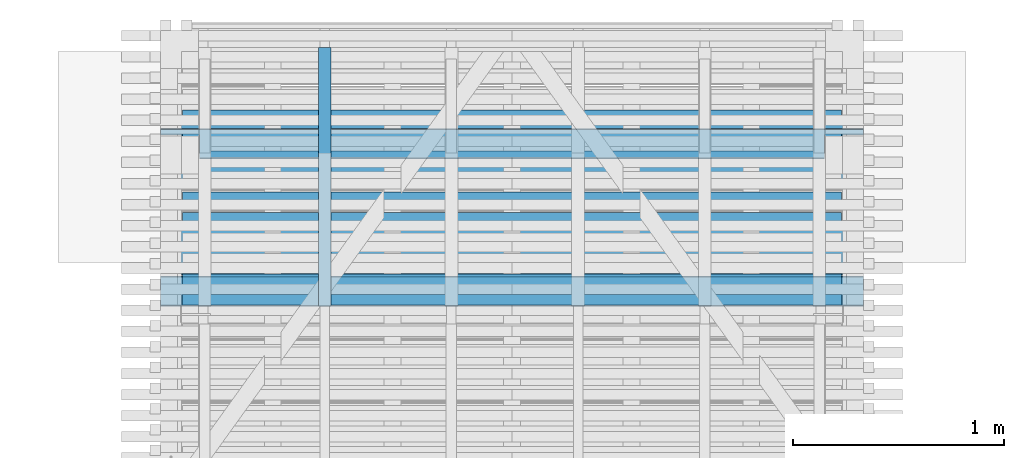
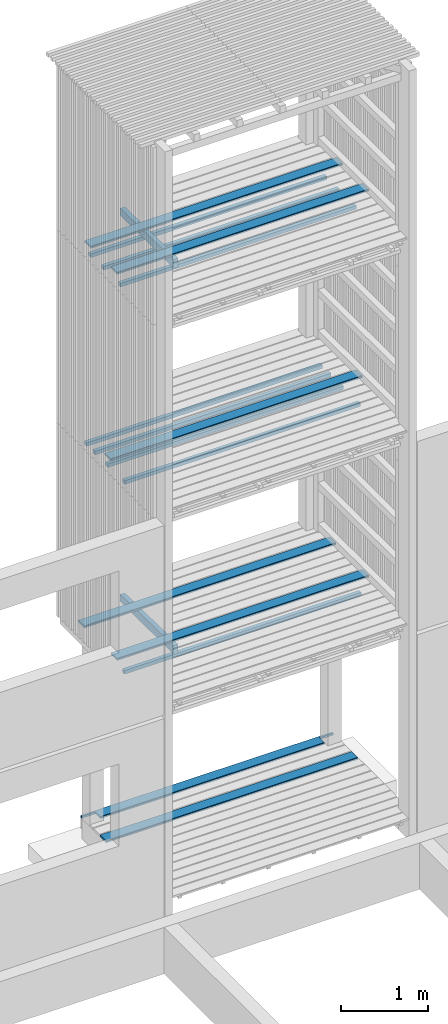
# One storey, part 23 of 182: 17 beams.
"""IFC2X3 building model written with IfcOpenShell, lengths in metres."""

import ifcopenshell
import ifcopenshell.guid

model = None  # the IFC model being written
_history = None  # IfcOwnerHistory: only IFC2X3 demands one
_inside = {}  # id of a spatial element -> (the spatial element, [elements in it])
_under = {}  # id of a project, library or spatial element -> (it, [spatial elements below it])
_declared = {}  # id of a project -> (the project, [libraries it declares])
_typed = {}  # id of a type object -> (the type object, [elements of that type])
_made_of = {}  # id of a material, layer set ... -> (it, [elements and type objects made of it])


def new_model(schema):
    """Start an empty IFC model of exactly this schema.

    Asked for "IFC4X3", IfcOpenShell would pick the latest addendum, in which some entities
    have other attributes; the version numbers below select the first issue.
    IFC2X3 requires an IfcOwnerHistory on every rooted entity: one is made here for all.
    """
    global model, _history
    if schema == "IFC4X3":
        model = ifcopenshell.file(schema_version=(4, 3, 0, 0))
    else:
        model = ifcopenshell.file(schema=schema)
    _inside.clear()
    _under.clear()
    _declared.clear()
    _typed.clear()
    _made_of.clear()
    _history = None
    if model.schema == "IFC2X3":
        org = make("IfcOrganization", Name="unknown")
        user = make(
            "IfcPersonAndOrganization",
            ThePerson=make("IfcPerson", FamilyName="unknown"),
            TheOrganization=org,
        )
        app = make(
            "IfcApplication",
            ApplicationDeveloper=org,
            Version="unknown",
            ApplicationFullName="unknown",
            ApplicationIdentifier="unknown",
        )
        _history = make(
            "IfcOwnerHistory",
            OwningUser=user,
            OwningApplication=app,
            ChangeAction="ADDED",
            CreationDate=0,
        )
    return model


def make(cls, **values):
    """One entity of the class cls with the attributes given. An attribute that is None is left unset."""
    return model.create_entity(
        cls, **{name: value for name, value in values.items() if value is not None}
    )


def rooted(cls, **values):
    """An entity with a GlobalId (a new one), such as an element, a storey or a relation."""
    return make(cls, GlobalId=ifcopenshell.guid.new(), OwnerHistory=_history, **values)


def si_unit(unit_type, name, prefix=None):
    """IfcSIUnit, for example si_unit("LENGTHUNIT", "METRE", prefix="MILLI")."""
    return make("IfcSIUnit", UnitType=unit_type, Prefix=prefix, Name=name)


def assignment(units):
    """IfcUnitAssignment: the units of a project."""
    return None if units is None else make("IfcUnitAssignment", Units=units)


def point(xyz):
    """IfcCartesianPoint."""
    return None if xyz is None else make("IfcCartesianPoint", Coordinates=xyz)


def direction(xyz):
    """IfcDirection."""
    return None if xyz is None else make("IfcDirection", DirectionRatios=xyz)


def frame(location, z_axis=None, x_axis=None):
    """IfcAxis2Placement3D, a coordinate frame: its origin and axes. An axis left out is left unset."""
    return make(
        "IfcAxis2Placement3D",
        Location=point(location),
        Axis=direction(z_axis),
        RefDirection=direction(x_axis),
    )


def origin():
    """The frame at (0, 0, 0) with its axes left unset."""
    return frame((0.0, 0.0, 0.0))


def place(relative_to, where):
    """IfcLocalPlacement: puts the frame where relative to a parent placement (None: the world)."""
    return make(
        "IfcLocalPlacement", PlacementRelTo=relative_to, RelativePlacement=where
    )


def context(
    kind, dimensions, precision=None, world=None, true_north=None, identifier=None
):
    """IfcGeometricRepresentationContext, for example the 3D "Model" context."""
    return make(
        "IfcGeometricRepresentationContext",
        ContextIdentifier=identifier,
        ContextType=kind,
        CoordinateSpaceDimension=dimensions,
        Precision=precision,
        WorldCoordinateSystem=world,
        TrueNorth=true_north,
    )


def project(units=None, contexts=None):
    """IfcProject with its units and contexts."""
    return rooted(
        "IfcProject",
        Name="project",
        RepresentationContexts=contexts,
        UnitsInContext=assignment(units),
    )


def spatial(cls, under=None, at=None, **own):
    """A site, building, storey or space (cls), placed at a placement, below another one or the project."""
    s = rooted(cls, ObjectPlacement=at, **own)
    if under is not None:
        _under.setdefault(under.id(), (under, []))[1].append(s)
    return s


def faces_of(points, faces, orient=None, outer=None):
    """IfcFace entities. A face is a list of loops; a loop is a list of indices into points, from 0.

    orient and outer hold one flag for each loop. By default every Orientation is true, the
    first loop of a face is its IfcFaceOuterBound and the others are IfcFaceBound.
    """
    made = []
    for i, loops in enumerate(faces):
        bounds = []
        for j, loop in enumerate(loops):
            is_outer = j == 0 if outer is None else outer[i][j]
            bounds.append(
                make(
                    "IfcFaceOuterBound" if is_outer else "IfcFaceBound",
                    Bound=make("IfcPolyLoop", Polygon=[points[k] for k in loop]),
                    Orientation=True if orient is None else orient[i][j],
                )
            )
        made.append(make("IfcFace", Bounds=bounds))
    return made


def faceted_brep(points, faces, orient=None, outer=None, voids=None):
    """IfcFacetedBrep: a solid bounded by flat faces; with voids (closed shells), ...WithVoids."""
    shared = [point(p) for p in points]
    hull = make("IfcClosedShell", CfsFaces=faces_of(shared, faces, orient, outer))
    if voids is None:
        return make("IfcFacetedBrep", Outer=hull)
    return make(
        "IfcFacetedBrepWithVoids",
        Outer=hull,
        Voids=[
            make(cls, CfsFaces=faces_of(shared, fs, o, b)) for cls, fs, o, b in voids
        ],
    )


def shape(context_of_items, identifier, shape_type, items):
    """IfcShapeRepresentation: the items that make up one representation, for example the "Body"."""
    return make(
        "IfcShapeRepresentation",
        ContextOfItems=context_of_items,
        RepresentationIdentifier=identifier,
        RepresentationType=shape_type,
        Items=items,
    )


def made_of(thing, what):
    """Note that an element or type object is made of a material, layer set ...; save() writes the relation."""
    if what is not None:
        _made_of.setdefault(what.id(), (what, []))[1].append(thing)
    return thing


def element(
    cls,
    number,
    at=None,
    inside=None,
    cuts=None,
    type_object=None,
    material=None,
    context=None,
    identifier="Body",
    shape_type=None,
    held_by="IfcProductDefinitionShape",
    body=None,
    shapes=None,
    **own,
):
    """One element of the class cls, such as IfcWall. Its Tag is "e" and its number.

    at: its placement. inside: the storey or other place that contains it. cuts: it is an
    opening in that element (IfcRelVoidsElement). A single representation is given by context,
    identifier, shape_type and body (its items); several are given by shapes. held_by: the class
    of the entity that holds the representations. save() writes the other relations.
    """
    e = rooted(cls, Tag="e%d" % number, ObjectPlacement=at, **own)
    if body is not None:
        shapes = [shape(context, identifier, shape_type, body)]
    if shapes is not None:
        e.Representation = make(held_by, Representations=shapes)
    if inside is not None:
        _inside.setdefault(inside.id(), (inside, []))[1].append(e)
    if cuts is not None:
        rooted(
            "IfcRelVoidsElement", RelatingBuildingElement=cuts, RelatedOpeningElement=e
        )
    if type_object is not None:
        _typed.setdefault(type_object.id(), (type_object, []))[1].append(e)
    return made_of(e, material)


def aggregate(whole, parts):
    """IfcRelAggregates: a whole, such as a stair, and the parts it consists of."""
    return rooted("IfcRelAggregates", RelatingObject=whole, RelatedObjects=parts)


def save(model, path):
    """Write the relations noted so far, then the file.

    IfcRelAggregates (storeys below a building ...), IfcRelContainedInSpatialStructure (elements
    in a storey), IfcRelDefinesByType, IfcRelAssociatesMaterial and IfcRelDeclares: one each for
    every whole, place, type object, material and project.
    """
    for whole, parts in _under.values():
        aggregate(whole, parts)
    for where, things in _inside.values():
        rooted(
            "IfcRelContainedInSpatialStructure",
            RelatedElements=things,
            RelatingStructure=where,
        )
    for kind, things in _typed.values():
        rooted("IfcRelDefinesByType", RelatedObjects=things, RelatingType=kind)
    for what, things in _made_of.values():
        rooted("IfcRelAssociatesMaterial", RelatedObjects=things, RelatingMaterial=what)
    for by, libraries in _declared.values():
        rooted("IfcRelDeclares", RelatingContext=by, RelatedDefinitions=libraries)
    model.write(path)


model = new_model("IFC2X3")

# Units and contexts
model_context = context("Model", 3, precision=1e-06, world=origin())
ifc_project = project(units=[si_unit("LENGTHUNIT", "METRE"), si_unit("PLANEANGLEUNIT", "RADIAN")], contexts=[model_context])

# Site, building, storey
site = spatial("IfcSite", under=ifc_project, CompositionType="ELEMENT")
building = spatial("IfcBuilding", under=site, CompositionType="ELEMENT")
storey = spatial("IfcBuildingStorey", under=building, Name="vs", CompositionType="ELEMENT", Elevation=-0.85)

# Beams
placement = place(None, origin())
beam_1_placement = place(placement, frame((6.539197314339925, 11.595077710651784, 5.167399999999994), z_axis=(0.0, 0.0, 1.0), x_axis=(-1.0, 0.0, 0.0)))
element("IfcBeam", 1, at=beam_1_placement, inside=storey, Name="Bardage", context=model_context, shape_type="Brep", body=[
    faceted_brep([(-3e-15, 0.024999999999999, -0.025), (-3e-15, -0.025000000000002, -0.025), (-3e-15, -0.025000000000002, 0.025), (-3e-15, 0.024999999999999, 0.025), (3.120000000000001, -0.025000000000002, 0.025), (3.120000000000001, -0.025000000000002, -0.025), (3.120000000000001, 0.025000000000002, -0.025), (3.120000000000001, 0.025000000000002, 0.025), (3.120000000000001, -0.025000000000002, -0.025), (3.120000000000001, -0.025000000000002, 0.025), (-3e-15, -0.025000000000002, 0.025), (-3e-15, -0.025000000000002, -0.025), (3.120000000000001, 0.025000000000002, -0.025), (3.120000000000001, -0.025000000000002, -0.025), (-3e-15, -0.025000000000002, -0.025), (-3e-15, 0.024999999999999, -0.025), (3.120000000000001, 0.025000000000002, 0.025), (3.120000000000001, 0.025000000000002, -0.025), (-3e-15, 0.024999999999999, -0.025), (-3e-15, 0.024999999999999, 0.025), (3.120000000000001, -0.025000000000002, 0.025), (3.120000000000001, 0.025000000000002, 0.025), (-3e-15, 0.024999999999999, 0.025), (-3e-15, -0.025000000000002, 0.025)], [[[0, 1, 2, 3]], [[4, 5, 6, 7]], [[8, 9, 10, 11]], [[12, 13, 14, 15]], [[16, 17, 18, 19]], [[20, 21, 22, 23]]]),
])
beam_2_placement = place(placement, frame((6.539197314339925, 12.080494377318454, 7.86739999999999), z_axis=(0.0, 0.0, 1.0), x_axis=(-1.0, 0.0, 0.0)))
element("IfcBeam", 2, at=beam_2_placement, inside=storey, Name="Bardage", context=model_context, shape_type="Brep", body=[
    faceted_brep([(3.120000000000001, 0.024999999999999, -0.024999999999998), (3.120000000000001, 0.024999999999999, 0.025000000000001), (3.120000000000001, -0.024999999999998, 0.025000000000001), (3.120000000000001, -0.024999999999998, -0.024999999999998), (-3e-15, -0.025000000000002, -0.024999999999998), (-3e-15, -0.025000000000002, 0.025000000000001), (-3e-15, 0.024999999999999, 0.025000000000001), (-3e-15, 0.024999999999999, -0.024999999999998), (-3e-15, 0.024999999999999, -0.024999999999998), (-3e-15, 0.024999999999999, 0.025000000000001), (3.120000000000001, 0.024999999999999, 0.025000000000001), (3.120000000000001, 0.024999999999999, -0.024999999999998), (-3e-15, 0.024999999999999, 0.025000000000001), (-3e-15, -0.025000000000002, 0.025000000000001), (3.120000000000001, -0.024999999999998, 0.025000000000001), (3.120000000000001, 0.024999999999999, 0.025000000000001), (-3e-15, -0.025000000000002, 0.025000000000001), (-3e-15, -0.025000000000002, -0.024999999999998), (3.120000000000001, -0.024999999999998, -0.024999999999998), (3.120000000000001, -0.024999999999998, 0.025000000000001), (-3e-15, -0.025000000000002, -0.024999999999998), (-3e-15, 0.024999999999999, -0.024999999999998), (3.120000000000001, 0.024999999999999, -0.024999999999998), (3.120000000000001, -0.024999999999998, -0.024999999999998)], [[[0, 1, 2, 3]], [[4, 5, 6, 7]], [[8, 9, 10, 11]], [[12, 13, 14, 15]], [[16, 17, 18, 19]], [[20, 21, 22, 23]]]),
])
beam_3_placement = place(placement, frame((6.644197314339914, 11.784577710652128, 5.433499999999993), z_axis=(0.0, 0.0, 1.0), x_axis=(-1.0, -8e-15, 0.0)))
element("IfcBeam", 3, at=beam_3_placement, inside=storey, Name="Caillebotis", context=model_context, shape_type="Brep", body=[
    faceted_brep([(3.329999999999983, -0.072500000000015, -0.0135), (3.329999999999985, 0.072499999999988, -0.0135), (3.329999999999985, 0.072499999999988, 0.0085), (3.329999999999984, 0.067499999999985, 0.0135), (3.329999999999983, -0.067500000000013, 0.0135), (3.329999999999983, -0.072500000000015, 0.008500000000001), (-1.5e-14, -0.072499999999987, 0.008500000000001), (-1.5e-14, -0.067499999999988, 0.0135), (-1.4e-14, 0.067500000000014, 0.0135), (-1.4e-14, 0.072500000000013, 0.0085), (-1.4e-14, 0.072500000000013, -0.0135), (-1.5e-14, -0.072499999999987, -0.0135), (3.329999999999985, 0.072499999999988, 0.0085), (3.329999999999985, 0.072499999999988, -0.0135), (-1.4e-14, 0.072500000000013, -0.0135), (-1.4e-14, 0.072500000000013, 0.0085), (3.329999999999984, 0.067499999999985, 0.0135), (3.329999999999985, 0.072499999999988, 0.0085), (-1.4e-14, 0.072500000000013, 0.0085), (-1.4e-14, 0.067500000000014, 0.0135), (3.329999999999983, -0.067500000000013, 0.0135), (3.329999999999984, 0.067499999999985, 0.0135), (-1.4e-14, 0.067500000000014, 0.0135), (-1.5e-14, -0.067499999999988, 0.0135), (3.329999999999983, -0.072500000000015, 0.008500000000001), (3.329999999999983, -0.067500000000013, 0.0135), (-1.5e-14, -0.067499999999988, 0.0135), (-1.5e-14, -0.072499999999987, 0.008500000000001), (3.329999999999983, -0.072500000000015, -0.0135), (3.329999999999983, -0.072500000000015, 0.008500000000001), (-1.5e-14, -0.072499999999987, 0.008500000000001), (-1.5e-14, -0.072499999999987, -0.0135), (-1.4e-14, 0.072500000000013, -0.0135), (3.329999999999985, 0.072499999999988, -0.0135), (3.329999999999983, -0.072500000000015, -0.0135), (-1.5e-14, -0.072499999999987, -0.0135)], [[[0, 1, 2, 3, 4, 5]], [[6, 7, 8, 9, 10, 11]], [[12, 13, 14, 15]], [[16, 17, 18, 19]], [[20, 21, 22, 23]], [[24, 25, 26, 27]], [[28, 29, 30, 31]], [[32, 33, 34, 35]]]),
])
beam_4_placement = place(placement, frame((6.644197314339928, 11.63457771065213, 8.13349999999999), z_axis=(0.0, 0.0, 1.0), x_axis=(-1.0, -1e-14, 0.0)))
element("IfcBeam", 4, at=beam_4_placement, inside=storey, Name="Caillebotis", context=model_context, shape_type="Brep", body=[
    faceted_brep([(3.329999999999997, -0.072500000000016, -0.013500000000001), (3.329999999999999, 0.072499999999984, -0.013500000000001), (3.329999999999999, 0.072499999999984, 0.008499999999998), (3.329999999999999, 0.067499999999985, 0.013499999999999), (3.329999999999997, -0.067500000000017, 0.013499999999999), (3.329999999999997, -0.072500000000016, 0.0085), (-1e-15, -0.072499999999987, 0.0085), (-1e-15, -0.067499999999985, 0.013499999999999), (1e-15, 0.067500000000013, 0.013499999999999), (1e-15, 0.072500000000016, 0.008499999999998), (1e-15, 0.072500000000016, -0.013500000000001), (-1e-15, -0.072499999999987, -0.013500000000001), (3.329999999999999, 0.072499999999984, 0.008499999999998), (3.329999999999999, 0.072499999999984, -0.013500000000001), (1e-15, 0.072500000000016, -0.013500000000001), (1e-15, 0.072500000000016, 0.008499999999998), (3.329999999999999, 0.067499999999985, 0.013499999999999), (3.329999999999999, 0.072499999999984, 0.008499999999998), (1e-15, 0.072500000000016, 0.008499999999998), (1e-15, 0.067500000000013, 0.013499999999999), (3.329999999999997, -0.067500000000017, 0.013499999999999), (3.329999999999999, 0.067499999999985, 0.013499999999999), (1e-15, 0.067500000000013, 0.013499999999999), (-1e-15, -0.067499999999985, 0.013499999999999), (3.329999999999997, -0.072500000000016, 0.0085), (3.329999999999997, -0.067500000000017, 0.013499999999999), (-1e-15, -0.067499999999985, 0.013499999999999), (-1e-15, -0.072499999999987, 0.0085), (3.329999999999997, -0.072500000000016, -0.013500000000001), (3.329999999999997, -0.072500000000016, 0.0085), (-1e-15, -0.072499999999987, 0.0085), (-1e-15, -0.072499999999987, -0.013500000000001), (1e-15, 0.072500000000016, -0.013500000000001), (3.329999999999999, 0.072499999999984, -0.013500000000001), (3.329999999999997, -0.072500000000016, -0.013500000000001), (-1e-15, -0.072499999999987, -0.013500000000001)], [[[0, 1, 2, 3, 4, 5]], [[6, 7, 8, 9, 10, 11]], [[12, 13, 14, 15]], [[16, 17, 18, 19]], [[20, 21, 22, 23]], [[24, 25, 26, 27]], [[28, 29, 30, 31]], [[32, 33, 34, 35]]]),
])
beam_5_placement = place(placement, frame((6.644197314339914, 12.334577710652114, 0.033500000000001), z_axis=(0.0, 0.0, 1.0), x_axis=(-1.0, 0.0, 0.0)))
element("IfcBeam", 5, at=beam_5_placement, inside=storey, Name="Caillebotis", context=model_context, shape_type="Brep", body=[
    faceted_brep([(0.0, -0.072500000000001, -0.013500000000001), (0.0, -0.072500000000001, 0.008500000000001), (0.0, -0.067500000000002, 0.0135), (0.0, -0.040499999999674, 0.0135), (0.0, -0.040499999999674, -0.013500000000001), (3.329999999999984, -0.067500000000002, 0.0135), (3.329999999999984, -0.040499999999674, 0.0135), (3.144999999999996, -0.040499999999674, 0.0135), (3.144999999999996, 0.067500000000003, 0.0135), (0.184999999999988, 0.067499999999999, 0.0135), (0.184999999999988, -0.040499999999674, 0.0135), (0.0, -0.040499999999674, 0.0135), (0.0, -0.067500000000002, 0.0135), (0.184999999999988, -0.040499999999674, 0.0135), (0.184999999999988, 0.067499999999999, 0.0135), (0.184999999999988, 0.072499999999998, 0.0085), (0.184999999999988, 0.072499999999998, -0.013500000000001), (0.184999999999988, -0.040499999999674, -0.013500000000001), (3.329999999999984, -0.072499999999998, 0.008500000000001), (3.329999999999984, -0.072499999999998, -0.013500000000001), (3.329999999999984, -0.040499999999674, -0.013500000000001), (3.329999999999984, -0.040499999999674, 0.0135), (3.329999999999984, -0.067500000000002, 0.0135), (3.144999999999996, 0.072499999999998, 0.0085), (3.144999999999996, 0.067500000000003, 0.0135), (3.144999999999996, -0.040499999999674, 0.0135), (3.144999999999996, -0.040499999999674, -0.013500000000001), (3.144999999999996, 0.072500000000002, -0.013500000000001), (3.144999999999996, -0.040499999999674, -0.013500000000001), (3.144999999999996, -0.040499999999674, 0.0135), (3.329999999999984, -0.040499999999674, 0.0135), (3.329999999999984, -0.040499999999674, -0.013500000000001), (0.184999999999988, 0.072499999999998, -0.013500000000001), (0.184999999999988, 0.072499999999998, 0.0085), (3.144999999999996, 0.072499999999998, 0.0085), (3.144999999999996, 0.072500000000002, -0.013500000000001), (0.184999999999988, 0.072499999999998, 0.0085), (0.184999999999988, 0.067499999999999, 0.0135), (3.144999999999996, 0.067500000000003, 0.0135), (3.144999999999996, 0.072499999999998, 0.0085), (3.329999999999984, -0.072499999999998, 0.008500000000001), (3.329999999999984, -0.067500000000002, 0.0135), (0.0, -0.067500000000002, 0.0135), (0.0, -0.072500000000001, 0.008500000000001), (3.329999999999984, -0.072499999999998, -0.013500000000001), (3.329999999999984, -0.072499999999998, 0.008500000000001), (0.0, -0.072500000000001, 0.008500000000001), (0.0, -0.072500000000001, -0.013500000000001), (0.184999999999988, -0.040499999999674, -0.013500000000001), (0.184999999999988, 0.072499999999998, -0.013500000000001), (3.144999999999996, 0.072500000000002, -0.013500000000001), (3.144999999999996, -0.040499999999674, -0.013500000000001), (3.329999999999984, -0.040499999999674, -0.013500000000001), (3.329999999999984, -0.072499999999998, -0.013500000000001), (0.0, -0.072500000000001, -0.013500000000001), (0.0, -0.040499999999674, -0.013500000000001), (0.0, -0.040499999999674, 0.0135), (0.184999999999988, -0.040499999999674, 0.0135), (0.184999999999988, -0.040499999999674, -0.013500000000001), (0.0, -0.040499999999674, -0.013500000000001)], [[[0, 1, 2, 3, 4]], [[5, 6, 7, 8, 9, 10, 11, 12]], [[13, 14, 15, 16, 17]], [[18, 19, 20, 21, 22]], [[23, 24, 25, 26, 27]], [[28, 29, 30, 31]], [[32, 33, 34, 35]], [[36, 37, 38, 39]], [[40, 41, 42, 43]], [[44, 45, 46, 47]], [[48, 49, 50, 51, 52, 53, 54, 55]], [[56, 57, 58, 59]]]),
])
beam_6_placement = place(placement, frame((6.644197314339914, 11.63457771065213, 2.733499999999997), z_axis=(0.0, 0.0, 1.0), x_axis=(-1.0, -1e-14, 0.0)))
element("IfcBeam", 6, at=beam_6_placement, inside=storey, Name="Caillebotis", context=model_context, shape_type="Brep", body=[
    faceted_brep([(3.329999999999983, -0.072500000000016, -0.0135), (3.329999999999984, 0.072499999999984, -0.0135), (3.329999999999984, 0.072499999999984, 0.0085), (3.329999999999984, 0.067499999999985, 0.0135), (3.329999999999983, -0.067500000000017, 0.0135), (3.329999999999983, -0.072500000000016, 0.008500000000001), (-1.5e-14, -0.072499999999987, 0.008500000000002), (-1.5e-14, -0.067499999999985, 0.0135), (-1.4e-14, 0.067500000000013, 0.0135), (-1.4e-14, 0.072500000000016, 0.0085), (-1.4e-14, 0.072500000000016, -0.0135), (-1.5e-14, -0.072499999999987, -0.0135), (3.329999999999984, 0.072499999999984, 0.0085), (3.329999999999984, 0.072499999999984, -0.0135), (-1.4e-14, 0.072500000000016, -0.0135), (-1.4e-14, 0.072500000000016, 0.0085), (3.329999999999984, 0.067499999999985, 0.0135), (3.329999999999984, 0.072499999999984, 0.0085), (-1.4e-14, 0.072500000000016, 0.0085), (-1.4e-14, 0.067500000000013, 0.0135), (3.329999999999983, -0.067500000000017, 0.0135), (3.329999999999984, 0.067499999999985, 0.0135), (-1.4e-14, 0.067500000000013, 0.0135), (-1.5e-14, -0.067499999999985, 0.0135), (3.329999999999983, -0.072500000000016, 0.008500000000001), (3.329999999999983, -0.067500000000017, 0.0135), (-1.5e-14, -0.067499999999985, 0.0135), (-1.5e-14, -0.072499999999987, 0.008500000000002), (3.329999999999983, -0.072500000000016, -0.0135), (3.329999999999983, -0.072500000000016, 0.008500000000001), (-1.5e-14, -0.072499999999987, 0.008500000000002), (-1.5e-14, -0.072499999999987, -0.0135), (-1.4e-14, 0.072500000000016, -0.0135), (3.329999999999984, 0.072499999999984, -0.0135), (3.329999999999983, -0.072500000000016, -0.0135), (-1.5e-14, -0.072499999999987, -0.0135)], [[[0, 1, 2, 3, 4, 5]], [[6, 7, 8, 9, 10, 11]], [[12, 13, 14, 15]], [[16, 17, 18, 19]], [[20, 21, 22, 23]], [[24, 25, 26, 27]], [[28, 29, 30, 31]], [[32, 33, 34, 35]]]),
])
beam_7_placement = place(placement, frame((4.092197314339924, 11.565077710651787, 8.00424999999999), z_axis=(0.0, 0.0, 1.0), x_axis=(0.0, 1.0, 0.0)))
element("IfcBeam", 7, at=beam_7_placement, inside=storey, Name="Solive", context=model_context, shape_type="Brep", body=[
    faceted_brep([(0.0, -0.030000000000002, -0.061849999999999), (1.225000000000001, -0.030000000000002, -0.061849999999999), (1.225000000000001, -0.030000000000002, 0.037349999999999), (0.0, -0.030000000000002, 0.061849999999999), (0.0, 0.030000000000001, 0.061850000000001), (0.0, 0.030000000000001, -0.061849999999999), (0.0, -0.030000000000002, -0.061849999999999), (0.0, -0.030000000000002, 0.061849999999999), (0.0, -0.030000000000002, -0.061849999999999), (0.0, 0.030000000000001, -0.061849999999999), (1.225000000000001, 0.030000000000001, -0.061849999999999), (1.225000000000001, -0.030000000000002, -0.061849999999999), (1.225000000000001, 0.030000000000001, -0.061849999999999), (0.0, 0.030000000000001, -0.061849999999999), (0.0, 0.030000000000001, 0.061850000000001), (1.225000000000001, 0.030000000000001, 0.037349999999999), (1.225000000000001, -0.030000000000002, 0.037349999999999), (1.225000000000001, -0.030000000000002, -0.061849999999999), (1.225000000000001, 0.030000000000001, -0.061849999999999), (1.225000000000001, 0.030000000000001, 0.037349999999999), (0.0, -0.030000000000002, 0.061849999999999), (1.225000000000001, -0.030000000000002, 0.037349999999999), (1.225000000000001, 0.030000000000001, 0.037349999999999), (0.0, 0.030000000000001, 0.061850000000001)], [[[0, 1, 2, 3]], [[4, 5, 6, 7]], [[8, 9, 10, 11]], [[12, 13, 14, 15]], [[16, 17, 18, 19]], [[20, 21, 22, 23]]]),
])
beam_8_placement = place(placement, frame((4.092197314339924, 11.565077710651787, 2.604249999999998), z_axis=(0.0, 0.0, 1.0), x_axis=(0.0, 1.0, 0.0)))
element("IfcBeam", 8, at=beam_8_placement, inside=storey, Name="Solive", context=model_context, shape_type="Brep", body=[
    faceted_brep([(0.0, -0.030000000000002, -0.06185), (1.225000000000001, -0.030000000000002, -0.06185), (1.225000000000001, -0.030000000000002, 0.037349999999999), (0.0, -0.030000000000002, 0.06185), (0.0, 0.030000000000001, 0.06185), (0.0, 0.030000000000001, -0.06185), (0.0, -0.030000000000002, -0.06185), (0.0, -0.030000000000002, 0.06185), (0.0, -0.030000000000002, -0.06185), (0.0, 0.030000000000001, -0.06185), (1.225000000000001, 0.030000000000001, -0.06185), (1.225000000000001, -0.030000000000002, -0.06185), (1.225000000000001, 0.030000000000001, -0.06185), (0.0, 0.030000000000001, -0.06185), (0.0, 0.030000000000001, 0.06185), (1.225000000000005, 0.030000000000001, 0.037349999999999), (1.225000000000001, -0.030000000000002, 0.037349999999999), (1.225000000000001, -0.030000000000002, -0.06185), (1.225000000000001, 0.030000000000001, -0.06185), (1.225000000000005, 0.030000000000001, 0.037349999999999), (0.0, -0.030000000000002, 0.06185), (1.225000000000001, -0.030000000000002, 0.037349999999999), (1.225000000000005, 0.030000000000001, 0.037349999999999), (0.0, 0.030000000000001, 0.06185)], [[[0, 1, 2, 3]], [[4, 5, 6, 7]], [[8, 9, 10, 11]], [[12, 13, 14, 15]], [[16, 17, 18, 19]], [[20, 21, 22, 23]]]),
])
beam_9_placement = place(placement, frame((6.644197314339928, 12.234577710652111, 8.13349999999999), z_axis=(0.0, 0.0, 1.0), x_axis=(-1.0, 0.0, 0.0)))
element("IfcBeam", 9, at=beam_9_placement, inside=storey, Name="Caillebotis", context=model_context, shape_type="Brep", body=[
    faceted_brep([(3.329999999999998, -0.072499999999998, -0.013500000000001), (3.329999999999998, 0.072499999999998, -0.013500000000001), (3.329999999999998, 0.072499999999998, 0.008499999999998), (3.329999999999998, 0.067500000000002, 0.013499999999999), (3.329999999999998, -0.067500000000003, 0.013499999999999), (3.329999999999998, -0.072499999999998, 0.0085), (0.0, -0.072500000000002, 0.0085), (0.0, -0.067500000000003, 0.013499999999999), (0.0, 0.067499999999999, 0.013499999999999), (0.0, 0.072499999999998, 0.008499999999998), (0.0, 0.072499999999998, -0.013500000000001), (0.0, -0.072500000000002, -0.013500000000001), (3.329999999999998, 0.072499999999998, 0.008499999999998), (3.329999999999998, 0.072499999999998, -0.013500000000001), (0.0, 0.072499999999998, -0.013500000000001), (0.0, 0.072499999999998, 0.008499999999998), (3.329999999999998, 0.067500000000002, 0.013499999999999), (3.329999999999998, 0.072499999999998, 0.008499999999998), (0.0, 0.072499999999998, 0.008499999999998), (0.0, 0.067499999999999, 0.013499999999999), (3.329999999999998, -0.067500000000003, 0.013499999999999), (3.329999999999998, 0.067500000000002, 0.013499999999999), (0.0, 0.067499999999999, 0.013499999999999), (0.0, -0.067500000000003, 0.013499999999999), (3.329999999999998, -0.072499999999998, 0.0085), (3.329999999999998, -0.067500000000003, 0.013499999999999), (0.0, -0.067500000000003, 0.013499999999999), (0.0, -0.072500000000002, 0.0085), (3.329999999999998, -0.072499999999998, -0.013500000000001), (3.329999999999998, -0.072499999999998, 0.0085), (0.0, -0.072500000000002, 0.0085), (0.0, -0.072500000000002, -0.013500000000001), (0.0, 0.072499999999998, -0.013500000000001), (3.329999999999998, 0.072499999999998, -0.013500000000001), (3.329999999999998, -0.072499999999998, -0.013500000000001), (0.0, -0.072500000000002, -0.013500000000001)], [[[0, 1, 2, 3, 4, 5]], [[6, 7, 8, 9, 10, 11]], [[12, 13, 14, 15]], [[16, 17, 18, 19]], [[20, 21, 22, 23]], [[24, 25, 26, 27]], [[28, 29, 30, 31]], [[32, 33, 34, 35]]]),
])
beam_10_placement = place(placement, frame((6.539197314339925, 11.692161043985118, 7.86739999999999), z_axis=(0.0, 0.0, 1.0), x_axis=(-1.0, 0.0, 0.0)))
element("IfcBeam", 10, at=beam_10_placement, inside=storey, Name="Bardage", context=model_context, shape_type="Brep", body=[
    faceted_brep([(3.120000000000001, 0.024999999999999, -0.024999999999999), (3.120000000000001, 0.024999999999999, 0.025000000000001), (3.120000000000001, -0.024999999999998, 0.025000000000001), (3.120000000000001, -0.024999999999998, -0.024999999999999), (-3e-15, -0.025000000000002, -0.024999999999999), (-3e-15, -0.025000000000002, 0.025000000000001), (-3e-15, 0.024999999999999, 0.025000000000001), (-3e-15, 0.024999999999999, -0.024999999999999), (-3e-15, 0.024999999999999, -0.024999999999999), (-3e-15, 0.024999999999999, 0.025000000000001), (3.120000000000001, 0.024999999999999, 0.025000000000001), (3.120000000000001, 0.024999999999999, -0.024999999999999), (-3e-15, 0.024999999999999, 0.025000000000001), (-3e-15, -0.025000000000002, 0.025000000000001), (3.120000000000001, -0.024999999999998, 0.025000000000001), (3.120000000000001, 0.024999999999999, 0.025000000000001), (-3e-15, -0.025000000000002, 0.025000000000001), (-3e-15, -0.025000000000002, -0.024999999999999), (3.120000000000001, -0.024999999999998, -0.024999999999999), (3.120000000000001, -0.024999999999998, 0.025000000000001), (-3e-15, -0.025000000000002, -0.024999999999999), (-3e-15, 0.024999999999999, -0.024999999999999), (3.120000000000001, 0.024999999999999, -0.024999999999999), (3.120000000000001, -0.024999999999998, -0.024999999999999)], [[[0, 1, 2, 3]], [[4, 5, 6, 7]], [[8, 9, 10, 11]], [[12, 13, 14, 15]], [[16, 17, 18, 19]], [[20, 21, 22, 23]]]),
])
beam_11_placement = place(placement, frame((3.414197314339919, 11.59007771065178, 2.517399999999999), z_axis=(0.0, 0.0, 1.0), x_axis=(1.0, 0.0, 0.0)))
element("IfcBeam", 11, at=beam_11_placement, inside=storey, Name="Ligneul", context=model_context, shape_type="Brep", body=[
    faceted_brep([(4e-15, -0.024999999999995, 0.025), (4e-15, -0.024999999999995, -0.025), (3.129999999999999, -0.024999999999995, -0.025), (3.129999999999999, -0.024999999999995, 0.025), (4e-15, 0.025000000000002, 0.025), (4e-15, -0.024999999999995, 0.025), (3.129999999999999, -0.024999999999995, 0.025), (3.129999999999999, 0.025000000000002, 0.025), (4e-15, -0.024999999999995, 0.025), (4e-15, 0.025000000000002, 0.025), (4e-15, 0.025000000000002, -0.025), (4e-15, -0.024999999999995, -0.025), (4e-15, 0.025000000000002, -0.025), (4e-15, 0.025000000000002, 0.025), (3.129999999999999, 0.025000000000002, 0.025), (3.129999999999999, 0.025000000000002, -0.025), (3.129999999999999, -0.024999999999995, -0.025), (4e-15, -0.024999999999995, -0.025), (4e-15, 0.025000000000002, -0.025), (3.129999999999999, 0.025000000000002, -0.025), (3.129999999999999, -0.024999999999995, 0.025), (3.129999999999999, -0.024999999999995, -0.025), (3.129999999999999, 0.025000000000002, -0.025), (3.129999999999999, 0.025000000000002, 0.025)], [[[0, 1, 2, 3]], [[4, 5, 6, 7]], [[8, 9, 10, 11]], [[12, 13, 14, 15]], [[16, 17, 18, 19]], [[20, 21, 22, 23]]]),
])
beam_12_placement = place(placement, frame((6.539197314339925, 12.371744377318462, 7.86739999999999), z_axis=(0.0, 0.0, 1.0), x_axis=(-1.0, 0.0, 0.0)))
element("IfcBeam", 12, at=beam_12_placement, inside=storey, Name="Bardage", context=model_context, shape_type="Brep", body=[
    faceted_brep([(-3e-15, -0.024999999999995, 0.025000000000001), (-3e-15, 0.025000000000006, 0.025000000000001), (-3e-15, 0.025000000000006, -0.024999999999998), (-3e-15, -0.024999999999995, -0.024999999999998), (3.119999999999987, 0.025000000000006, 0.025000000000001), (3.120000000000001, -0.024999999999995, 0.025000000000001), (3.120000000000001, -0.024999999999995, -0.024999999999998), (3.119999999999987, 0.025000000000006, -0.024999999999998), (3.120000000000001, -0.024999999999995, 0.025000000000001), (3.119999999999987, 0.025000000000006, 0.025000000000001), (-3e-15, 0.025000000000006, 0.025000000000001), (-3e-15, -0.024999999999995, 0.025000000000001), (-3e-15, 0.025000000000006, 0.025000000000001), (3.119999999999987, 0.025000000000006, 0.025000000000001), (3.119999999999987, 0.025000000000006, -0.024999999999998), (-3e-15, 0.025000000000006, -0.024999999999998), (-3e-15, -0.024999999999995, -0.024999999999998), (-3e-15, 0.025000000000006, -0.024999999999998), (3.119999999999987, 0.025000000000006, -0.024999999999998), (3.120000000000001, -0.024999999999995, -0.024999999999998), (3.120000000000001, -0.024999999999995, -0.024999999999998), (3.120000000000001, -0.024999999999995, 0.025000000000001), (-3e-15, -0.024999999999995, 0.025000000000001), (-3e-15, -0.024999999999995, -0.024999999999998)], [[[0, 1, 2, 3]], [[4, 5, 6, 7]], [[8, 9, 10, 11]], [[12, 13, 14, 15]], [[16, 17, 18, 19]], [[20, 21, 22, 23]]]),
])
beam_13_placement = place(placement, frame((6.539197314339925, 12.274661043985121, 5.167399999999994), z_axis=(0.0, 0.0, 1.0), x_axis=(-1.0, 0.0, 0.0)))
element("IfcBeam", 13, at=beam_13_placement, inside=storey, Name="Bardage", context=model_context, shape_type="Brep", body=[
    faceted_brep([(3.120000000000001, 0.024999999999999, 0.024999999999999), (3.120000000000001, -0.024999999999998, 0.024999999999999), (3.120000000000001, -0.024999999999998, -0.024999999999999), (3.120000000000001, 0.024999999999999, -0.024999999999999), (-3e-15, -0.025000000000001, 0.024999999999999), (-3e-15, 0.024999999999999, 0.024999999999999), (-3e-15, 0.024999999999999, -0.024999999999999), (-3e-15, -0.025000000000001, -0.024999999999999), (3.120000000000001, 0.024999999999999, -0.024999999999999), (3.120000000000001, -0.024999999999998, -0.024999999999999), (-3e-15, -0.025000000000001, -0.024999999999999), (-3e-15, 0.024999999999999, -0.024999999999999), (-3e-15, -0.025000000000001, -0.024999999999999), (3.120000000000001, -0.024999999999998, -0.024999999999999), (3.120000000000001, -0.024999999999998, 0.024999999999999), (-3e-15, -0.025000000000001, 0.024999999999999), (-3e-15, -0.025000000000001, 0.024999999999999), (3.120000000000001, -0.024999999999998, 0.024999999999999), (3.120000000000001, 0.024999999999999, 0.024999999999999), (-3e-15, 0.024999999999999, 0.024999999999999), (-3e-15, 0.024999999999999, 0.024999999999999), (3.120000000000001, 0.024999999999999, 0.024999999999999), (3.120000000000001, 0.024999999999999, -0.024999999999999), (-3e-15, 0.024999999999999, -0.024999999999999)], [[[0, 1, 2, 3]], [[4, 5, 6, 7]], [[8, 9, 10, 11]], [[12, 13, 14, 15]], [[16, 17, 18, 19]], [[20, 21, 22, 23]]]),
])
beam_14_placement = place(placement, frame((6.539197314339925, 11.98341104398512, 5.167399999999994), z_axis=(0.0, 0.0, 1.0), x_axis=(-1.0, 0.0, 0.0)))
element("IfcBeam", 14, at=beam_14_placement, inside=storey, Name="Bardage", context=model_context, shape_type="Brep", body=[
    faceted_brep([(3.120000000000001, 0.024999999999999, -0.024999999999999), (3.120000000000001, 0.024999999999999, 0.025), (3.120000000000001, -0.025000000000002, 0.025), (3.120000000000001, -0.025000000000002, -0.024999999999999), (-3e-15, -0.025000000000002, -0.024999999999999), (-3e-15, -0.025000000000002, 0.025), (-3e-15, 0.024999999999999, 0.025), (-3e-15, 0.024999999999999, -0.024999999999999), (-3e-15, 0.024999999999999, -0.024999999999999), (-3e-15, 0.024999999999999, 0.025), (3.120000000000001, 0.024999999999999, 0.025), (3.120000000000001, 0.024999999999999, -0.024999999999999), (-3e-15, 0.024999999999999, 0.025), (-3e-15, -0.025000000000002, 0.025), (3.120000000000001, -0.025000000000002, 0.025), (3.120000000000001, 0.024999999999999, 0.025), (-3e-15, -0.025000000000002, 0.025), (-3e-15, -0.025000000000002, -0.024999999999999), (3.120000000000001, -0.025000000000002, -0.024999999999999), (3.120000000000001, -0.025000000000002, 0.025), (-3e-15, -0.025000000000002, -0.024999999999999), (-3e-15, 0.024999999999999, -0.024999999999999), (3.120000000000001, 0.024999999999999, -0.024999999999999), (3.120000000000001, -0.025000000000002, -0.024999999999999)], [[[0, 1, 2, 3]], [[4, 5, 6, 7]], [[8, 9, 10, 11]], [[12, 13, 14, 15]], [[16, 17, 18, 19]], [[20, 21, 22, 23]]]),
])
beam_15_placement = place(placement, frame((6.644197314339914, 12.38457771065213, 2.733499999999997), z_axis=(0.0, 0.0, 1.0), x_axis=(-1.0, -1e-14, 0.0)))
element("IfcBeam", 15, at=beam_15_placement, inside=storey, Name="Caillebotis", context=model_context, shape_type="Brep", body=[
    faceted_brep([(3.329999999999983, -0.072500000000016, -0.0135), (3.329999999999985, 0.072499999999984, -0.0135), (3.329999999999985, 0.072499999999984, 0.0085), (3.329999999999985, 0.067499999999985, 0.0135), (3.329999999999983, -0.067500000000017, 0.0135), (3.329999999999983, -0.072500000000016, 0.008500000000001), (-1.5e-14, -0.072499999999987, 0.008500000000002), (-1.5e-14, -0.067499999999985, 0.0135), (-1.4e-14, 0.067500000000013, 0.0135), (-1.4e-14, 0.072500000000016, 0.0085), (-1.4e-14, 0.072500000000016, -0.0135), (-1.5e-14, -0.072499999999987, -0.0135), (3.329999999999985, 0.072499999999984, 0.0085), (3.329999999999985, 0.072499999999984, -0.0135), (-1.4e-14, 0.072500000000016, -0.0135), (-1.4e-14, 0.072500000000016, 0.0085), (3.329999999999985, 0.067499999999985, 0.0135), (3.329999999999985, 0.072499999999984, 0.0085), (-1.4e-14, 0.072500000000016, 0.0085), (-1.4e-14, 0.067500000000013, 0.0135), (3.329999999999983, -0.067500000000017, 0.0135), (3.329999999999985, 0.067499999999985, 0.0135), (-1.4e-14, 0.067500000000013, 0.0135), (-1.5e-14, -0.067499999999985, 0.0135), (3.329999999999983, -0.072500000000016, 0.008500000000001), (3.329999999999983, -0.067500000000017, 0.0135), (-1.5e-14, -0.067499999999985, 0.0135), (-1.5e-14, -0.072499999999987, 0.008500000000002), (3.329999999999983, -0.072500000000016, -0.0135), (3.329999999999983, -0.072500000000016, 0.008500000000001), (-1.5e-14, -0.072499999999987, 0.008500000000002), (-1.5e-14, -0.072499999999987, -0.0135), (-1.4e-14, 0.072500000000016, -0.0135), (3.329999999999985, 0.072499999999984, -0.0135), (3.329999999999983, -0.072500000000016, -0.0135), (-1.5e-14, -0.072499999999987, -0.0135)], [[[0, 1, 2, 3, 4, 5]], [[6, 7, 8, 9, 10, 11]], [[12, 13, 14, 15]], [[16, 17, 18, 19]], [[20, 21, 22, 23]], [[24, 25, 26, 27]], [[28, 29, 30, 31]], [[32, 33, 34, 35]]]),
])
beam_16_placement = place(placement, frame((6.644197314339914, 11.884577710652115, 0.033500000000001), z_axis=(0.0, 0.0, 1.0), x_axis=(-1.0, -1e-15, 0.0)))
element("IfcBeam", 16, at=beam_16_placement, inside=storey, Name="Caillebotis", context=model_context, shape_type="Brep", body=[
    faceted_brep([(3.329999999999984, -0.067500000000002, 0.0135), (3.329999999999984, -0.072500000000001, 0.008500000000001), (3.329999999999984, -0.072500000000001, -0.013500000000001), (3.329999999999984, 0.072499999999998, -0.013500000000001), (3.329999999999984, 0.072499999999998, 0.0085), (3.329999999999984, 0.067499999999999, 0.0135), (0.0, 0.0675, 0.0135), (0.0, 0.072500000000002, 0.0085), (0.0, 0.072500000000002, -0.013500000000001), (0.0, -0.072500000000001, -0.013500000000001), (0.0, -0.072500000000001, 0.008500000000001), (0.0, -0.067499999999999, 0.0135), (3.329999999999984, -0.072500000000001, -0.013500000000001), (3.329999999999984, -0.072500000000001, 0.008500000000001), (0.0, -0.072500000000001, 0.008500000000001), (0.0, -0.072500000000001, -0.013500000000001), (3.329999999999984, 0.072499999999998, -0.013500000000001), (3.329999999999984, -0.072500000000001, -0.013500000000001), (0.0, -0.072500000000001, -0.013500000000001), (0.0, 0.072500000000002, -0.013500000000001), (3.329999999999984, 0.072499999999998, 0.0085), (3.329999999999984, 0.072499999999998, -0.013500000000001), (0.0, 0.072500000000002, -0.013500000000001), (0.0, 0.072500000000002, 0.0085), (3.329999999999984, 0.067499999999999, 0.0135), (3.329999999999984, 0.072499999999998, 0.0085), (0.0, 0.072500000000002, 0.0085), (0.0, 0.0675, 0.0135), (3.329999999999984, -0.067500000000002, 0.0135), (3.329999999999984, 0.067499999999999, 0.0135), (0.0, 0.0675, 0.0135), (0.0, -0.067499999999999, 0.0135), (0.0, -0.072500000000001, 0.008500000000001), (3.329999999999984, -0.072500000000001, 0.008500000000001), (3.329999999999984, -0.067500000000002, 0.0135), (0.0, -0.067499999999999, 0.0135)], [[[0, 1, 2, 3, 4, 5]], [[6, 7, 8, 9, 10, 11]], [[12, 13, 14, 15]], [[16, 17, 18, 19]], [[20, 21, 22, 23]], [[24, 25, 26, 27]], [[28, 29, 30, 31]], [[32, 33, 34, 35]]]),
])
beam_17_placement = place(placement, frame((6.539197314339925, 12.46882771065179, 5.167399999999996), z_axis=(0.0, 0.0, 1.0), x_axis=(-1.0, 0.0, 0.0)))
element("IfcBeam", 17, at=beam_17_placement, inside=storey, Name="Bardage", context=model_context, shape_type="Brep", body=[
    faceted_brep([(3.120000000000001, 0.025000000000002, -0.025), (3.120000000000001, 0.025000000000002, 0.024999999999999), (3.120000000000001, -0.024999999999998, 0.024999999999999), (3.120000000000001, -0.024999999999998, -0.025), (-3e-15, -0.024999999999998, -0.025), (-3e-15, -0.024999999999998, 0.024999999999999), (-3e-15, 0.025000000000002, 0.024999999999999), (-3e-15, 0.025000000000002, -0.025), (-3e-15, 0.025000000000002, -0.025), (-3e-15, 0.025000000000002, 0.024999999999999), (3.120000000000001, 0.025000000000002, 0.024999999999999), (3.120000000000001, 0.025000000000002, -0.025), (-3e-15, 0.025000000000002, 0.024999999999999), (-3e-15, -0.024999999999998, 0.024999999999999), (3.120000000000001, -0.024999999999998, 0.024999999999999), (3.120000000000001, 0.025000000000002, 0.024999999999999), (-3e-15, -0.024999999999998, 0.024999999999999), (-3e-15, -0.024999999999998, -0.025), (3.120000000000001, -0.024999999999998, -0.025), (3.120000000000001, -0.024999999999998, 0.024999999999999), (-3e-15, -0.024999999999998, -0.025), (-3e-15, 0.025000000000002, -0.025), (3.120000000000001, 0.025000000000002, -0.025), (3.120000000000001, -0.024999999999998, -0.025)], [[[0, 1, 2, 3]], [[4, 5, 6, 7]], [[8, 9, 10, 11]], [[12, 13, 14, 15]], [[16, 17, 18, 19]], [[20, 21, 22, 23]]]),
])

save(model, "model.ifc")
